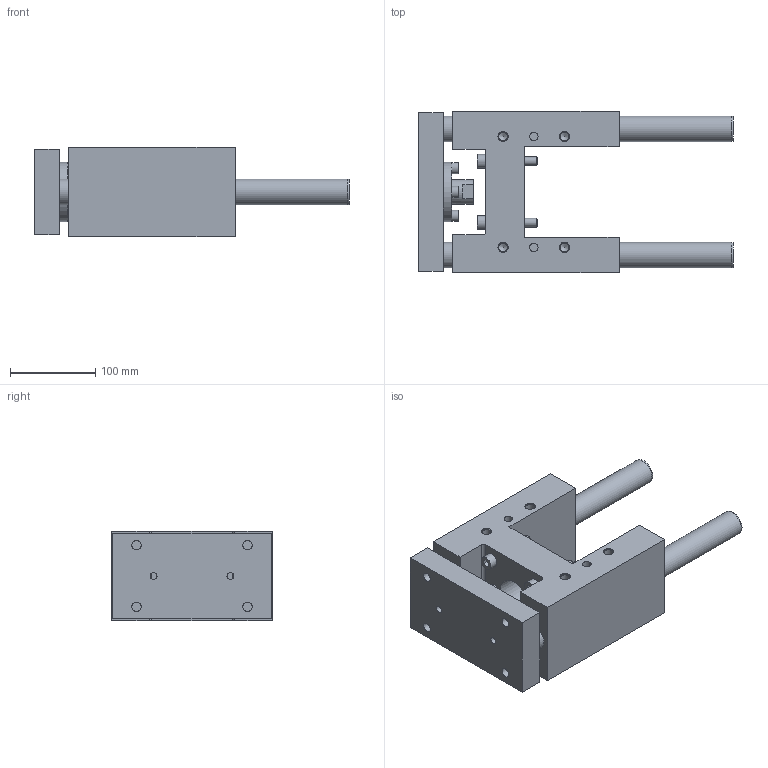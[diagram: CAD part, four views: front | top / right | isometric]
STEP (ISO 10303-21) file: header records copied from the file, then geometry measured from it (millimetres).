
FILE_DESCRIPTION( ( 'STEP AP214' ), '1' );
FILE_NAME( 'U:/Etudes/Top Solid/BIBLIO 3D AVM/TOP/PNEUMATIQUE/GUIDAGES/Type 32 (en H)/R_Renforcée/328R2130.step', '2005-05-27T09:10:22', ( ' ' ), ( ' ' ), 'XStep 1.0', ' ', ' ' );
FILE_SCHEMA( ( 'automotive_design' ) );
Length unit declared in the file: metre
Products named in the file (2): 1; 2
Bounding box: 369 x 189 x 105 mm (x, y, z)
Volume: 2914870.9 mm3; surface area: 350506.7 mm2
Topology: 2 solids, 7 shells, 209 faces, 472 edges, 313 vertices
Faces by surface type: plane 118, cylinder 70, cone 21
Full cylindrical faces by diameter (mm): 8 x10, 8.5 x4, 10 x10, 10.106 x12, 11 x8, 13 x4, 16 x4, 18 x4, 18.376 x2, 29 x1, 30 x4, 32 x1, 42 x1, 45 x2, 70 x1
Entity records: 7075 total; most frequent: CARTESIAN_POINT 1101, DIRECTION 894, ORIENTED_EDGE 690, EDGE_LOOP 362, AXIS2_PLACEMENT_3D 346, EDGE_CURVE 345, VERTEX_POINT 281, FACE_OUTER_BOUND 277
